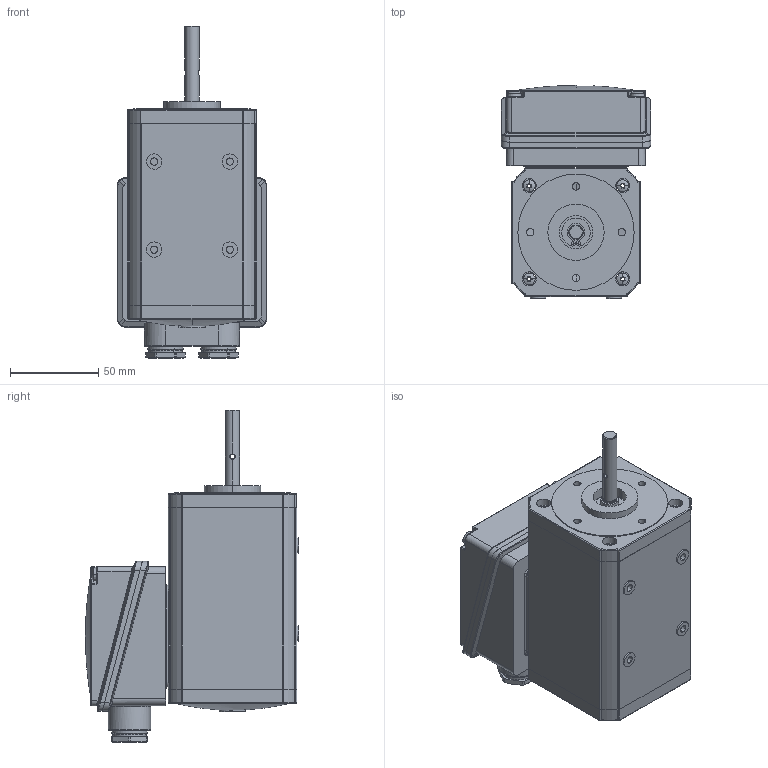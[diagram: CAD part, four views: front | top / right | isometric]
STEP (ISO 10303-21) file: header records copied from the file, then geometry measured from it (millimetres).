
FILE_DESCRIPTION (( 'STEP AP214' ), '1' );
FILE_NAME ('Motor IGK65-40.STEP', '2014-02-03T06:08:12', ( '' ), ( '' ), 'SwSTEP 2.0', 'SolidWorks 2012', '' );
FILE_SCHEMA (( 'AUTOMOTIVE_DESIGN' ));
Length unit declared in the file: millimetre
Products named in the file (1): Motor IGK65-40
Bounding box: 85 x 121 x 188.55 mm (x, y, z)
Surface area: 77624.6 mm2 (no closed solid volume)
Topology: 0 solids, 29 shells, 663 faces, 1961 edges, 1281 vertices
Faces by surface type: cylinder 254, plane 253, torus 46, sphere 45, bspline 43, cone 22
Entity records: 33653 total; most frequent: CARTESIAN_POINT 9172, DIRECTION 3750, ORIENTED_EDGE 3244, EDGE_CURVE 1939, AXIS2_PLACEMENT_3D 1437, VERTEX_POINT 1281, LINE 876, VECTOR 876
